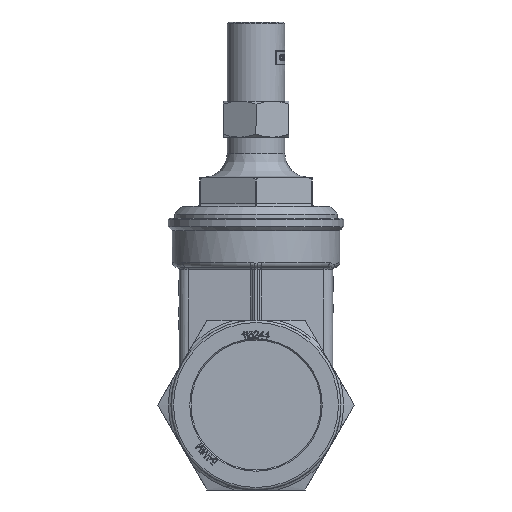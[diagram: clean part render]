
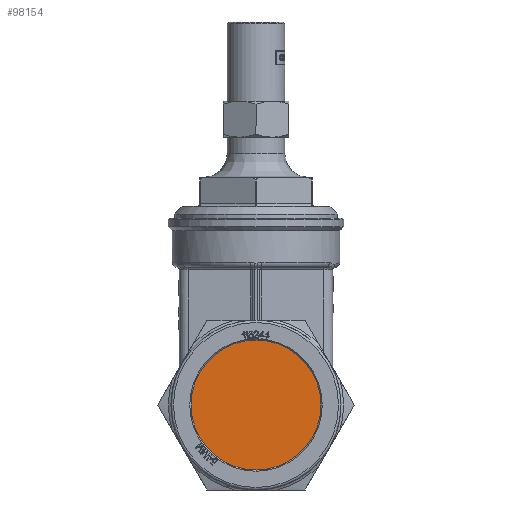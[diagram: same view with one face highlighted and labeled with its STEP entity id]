
A CAD part, left-side view. The second image highlights one B-rep face of the part: STEP entity #98154.
In plain terms, the highlighted planar face has unit normal (-1, 0, 0).
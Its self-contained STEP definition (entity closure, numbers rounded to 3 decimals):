
#98131=CARTESIAN_POINT('',(18.614,-27.138,0.0));
#98132=VERTEX_POINT('',#98131);
#98133=CARTESIAN_POINT('',(18.614,0.0,0.0));
#98134=DIRECTION('',(-1.0,0.0,0.0));
#98135=DIRECTION('',(0.0,-1.0,0.0));
#98136=AXIS2_PLACEMENT_3D('',#98133,#98134,#98135);
#98137=CIRCLE('',#98136,27.138);
#98138=EDGE_CURVE('',#98132,#98132,#98137,.T.);
#98146=CARTESIAN_POINT('',(18.614,-13.569,0.0));
#98147=DIRECTION('',(-1.0,0.0,0.0));
#98148=DIRECTION('',(0.0,0.0,1.0));
#98149=AXIS2_PLACEMENT_3D('',#98146,#98147,#98148);
#98150=PLANE('',#98149);
#98151=ORIENTED_EDGE('',*,*,#98138,.T.);
#98152=EDGE_LOOP('',(#98151));
#98153=FACE_OUTER_BOUND('',#98152,.T.);
#98154=ADVANCED_FACE('',(#98153),#98150,.T.);
